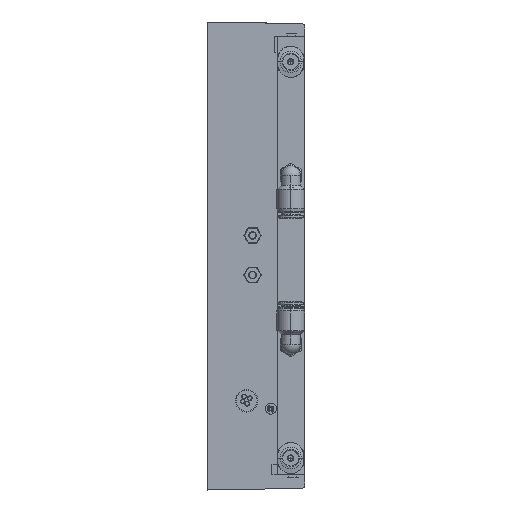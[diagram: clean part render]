
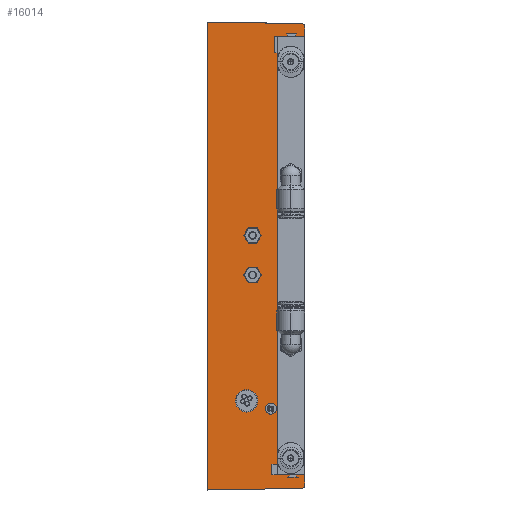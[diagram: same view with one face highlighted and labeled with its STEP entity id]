
A CAD part, left-side view. The second image highlights one B-rep face of the part: STEP entity #16014.
In plain terms, the highlighted planar face has unit normal (-1, 0, 0).
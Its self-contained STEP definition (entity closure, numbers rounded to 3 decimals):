
#160 = CARTESIAN_POINT ( 'NONE',  ( -32.853, 210.873, 139.895 ) ) ;
#311 = ORIENTED_EDGE ( 'NONE', *, *, #30897, .T. ) ;
#361 = VECTOR ( 'NONE', #24847, 1000. ) ;
#511 = VERTEX_POINT ( 'NONE', #12876 ) ;
#1052 = FACE_BOUND ( 'NONE', #29954, .T. ) ;
#1150 = ORIENTED_EDGE ( 'NONE', *, *, #25628, .T. ) ;
#1228 = PLANE ( 'NONE',  #23000 ) ;
#1343 = DIRECTION ( 'NONE',  ( -1., 0., 0. ) ) ;
#1894 = LINE ( 'NONE', #15651, #11724 ) ;
#2403 = VECTOR ( 'NONE', #24812, 1000. ) ;
#2794 = DIRECTION ( 'NONE',  ( 0., 0., 1. ) ) ;
#3715 = LINE ( 'NONE', #19744, #2403 ) ;
#3848 = DIRECTION ( 'NONE',  ( 0., 0., 1. ) ) ;
#4008 = DIRECTION ( 'NONE',  ( 0., 0., 1. ) ) ;
#4211 = VECTOR ( 'NONE', #25188, 1000. ) ;
#4447 = EDGE_CURVE ( 'NONE', #9259, #24603, #5367, .T. ) ;
#4503 = CARTESIAN_POINT ( 'NONE',  ( -32.853, 175.446, 316.451 ) ) ;
#4928 = ORIENTED_EDGE ( 'NONE', *, *, #4447, .F. ) ;
#5185 = CARTESIAN_POINT ( 'NONE',  ( -32.853, 184.323, 311.568 ) ) ;
#5187 = ORIENTED_EDGE ( 'NONE', *, *, #28035, .T. ) ;
#5367 = LINE ( 'NONE', #5185, #15071 ) ;
#5536 = CIRCLE ( 'NONE', #25023, 2.95 ) ;
#5706 = CIRCLE ( 'NONE', #32415, 3. ) ;
#5726 = CARTESIAN_POINT ( 'NONE',  ( -32.853, 173.873, 192.093 ) ) ;
#6173 = VERTEX_POINT ( 'NONE', #6672 ) ;
#6361 = CARTESIAN_POINT ( 'NONE',  ( -32.853, 190.935, 316.694 ) ) ;
#6583 = DIRECTION ( 'NONE',  ( 0., 0., 1. ) ) ;
#6672 = CARTESIAN_POINT ( 'NONE',  ( -32.853, 175.432, 140.512 ) ) ;
#7211 = DIRECTION ( 'NONE',  ( 0., 0., 1. ) ) ;
#7754 = DIRECTION ( 'NONE',  ( 0., 0., -1. ) ) ;
#7971 = VERTEX_POINT ( 'NONE', #160 ) ;
#8212 = CARTESIAN_POINT ( 'NONE',  ( -32.853, 193.673, 221.268 ) ) ;
#8288 = DIRECTION ( 'NONE',  ( 0., 0., 1. ) ) ;
#8375 = DIRECTION ( 'NONE',  ( -1., 0., 0. ) ) ;
#8533 = VERTEX_POINT ( 'NONE', #17079 ) ;
#8770 = EDGE_CURVE ( 'NONE', #32899, #27971, #12272, .T. ) ;
#9093 = CARTESIAN_POINT ( 'NONE',  ( -32.853, 193.673, 224.218 ) ) ;
#9145 = CIRCLE ( 'NONE', #28659, 2.95 ) ;
#9259 = VERTEX_POINT ( 'NONE', #19594 ) ;
#9427 = EDGE_LOOP ( 'NONE', ( #311, #1150, #12902, #17971, #4928, #14516, #10961, #5187, #16663, #21124, #27500, #14323 ) ) ;
#9485 = DIRECTION ( 'NONE',  ( 0., 0., 1. ) ) ;
#9612 = VERTEX_POINT ( 'NONE', #29008 ) ;
#10036 = EDGE_CURVE ( 'NONE', #23851, #8533, #17955, .T. ) ;
#10272 = CIRCLE ( 'NONE', #28685, 2.95 ) ;
#10541 = LINE ( 'NONE', #18737, #11968 ) ;
#10952 = LINE ( 'NONE', #5726, #23796 ) ;
#10961 = ORIENTED_EDGE ( 'NONE', *, *, #8770, .T. ) ;
#11280 = DIRECTION ( 'NONE',  ( 0., 0., 1. ) ) ;
#11695 = FACE_BOUND ( 'NONE', #33090, .T. ) ;
#11724 = VECTOR ( 'NONE', #15831, 1000. ) ;
#11935 = LINE ( 'NONE', #27467, #361 ) ;
#11968 = VECTOR ( 'NONE', #7754, 1000. ) ;
#12272 = CIRCLE ( 'NONE', #13381, 3. ) ;
#12642 = CARTESIAN_POINT ( 'NONE',  ( -32.853, 184.323, 311.568 ) ) ;
#12845 = CARTESIAN_POINT ( 'NONE',  ( -32.853, 173.873, 145.668 ) ) ;
#12876 = CARTESIAN_POINT ( 'NONE',  ( -32.853, 173.873, 140.98 ) ) ;
#12902 = ORIENTED_EDGE ( 'NONE', *, *, #23226, .F. ) ;
#13238 = CARTESIAN_POINT ( 'NONE',  ( -32.853, 180.921, 140.418 ) ) ;
#13381 = AXIS2_PLACEMENT_3D ( 'NONE', #31716, #24014, #15830 ) ;
#14323 = ORIENTED_EDGE ( 'NONE', *, *, #20959, .T. ) ;
#14516 = ORIENTED_EDGE ( 'NONE', *, *, #20982, .T. ) ;
#15071 = VECTOR ( 'NONE', #15807, 1000. ) ;
#15089 = CARTESIAN_POINT ( 'NONE',  ( -32.853, 193.673, 233.318 ) ) ;
#15651 = CARTESIAN_POINT ( 'NONE',  ( -32.853, 210.873, 166.768 ) ) ;
#15807 = DIRECTION ( 'NONE',  ( 0., 1., 0. ) ) ;
#15830 = DIRECTION ( 'NONE',  ( 0., 0., 1. ) ) ;
#15831 = DIRECTION ( 'NONE',  ( 0., 0., -1. ) ) ;
#16014 = ADVANCED_FACE ( 'NONE', ( #1052, #11695, #32981 ), #1228, .T. ) ;
#16663 = ORIENTED_EDGE ( 'NONE', *, *, #28158, .T. ) ;
#16739 = VERTEX_POINT ( 'NONE', #12845 ) ;
#17079 = CARTESIAN_POINT ( 'NONE',  ( -32.853, 193.673, 218.318 ) ) ;
#17769 = VECTOR ( 'NONE', #28168, 1000. ) ;
#17955 = CIRCLE ( 'NONE', #24655, 2.95 ) ;
#17971 = ORIENTED_EDGE ( 'NONE', *, *, #19564, .F. ) ;
#18246 = CARTESIAN_POINT ( 'NONE',  ( -32.853, 175.483, 143.511 ) ) ;
#18737 = CARTESIAN_POINT ( 'NONE',  ( -32.853, 184.323, 171.668 ) ) ;
#19564 = EDGE_CURVE ( 'NONE', #24603, #26251, #10541, .T. ) ;
#19594 = CARTESIAN_POINT ( 'NONE',  ( -32.853, 173.873, 311.568 ) ) ;
#19720 = CARTESIAN_POINT ( 'NONE',  ( -32.853, 193.11, 192.093 ) ) ;
#19744 = CARTESIAN_POINT ( 'NONE',  ( -32.853, 184.323, 140.358 ) ) ;
#20220 = CARTESIAN_POINT ( 'NONE',  ( -32.853, 210.873, 317.042 ) ) ;
#20602 = VERTEX_POINT ( 'NONE', #15089 ) ;
#20959 = EDGE_CURVE ( 'NONE', #34415, #6173, #11935, .T. ) ;
#20982 = EDGE_CURVE ( 'NONE', #9259, #32899, #32705, .T. ) ;
#21124 = ORIENTED_EDGE ( 'NONE', *, *, #29226, .T. ) ;
#21535 = DIRECTION ( 'NONE',  ( 0., 1., 0.012 ) ) ;
#21547 = LINE ( 'NONE', #32198, #4211 ) ;
#21549 = DIRECTION ( 'NONE',  ( -1., 0., 0. ) ) ;
#22521 = DIRECTION ( 'NONE',  ( -1., 0., 0. ) ) ;
#23000 = AXIS2_PLACEMENT_3D ( 'NONE', #19720, #22521, #3848 ) ;
#23076 = VERTEX_POINT ( 'NONE', #30081 ) ;
#23226 = EDGE_CURVE ( 'NONE', #26251, #16739, #21547, .T. ) ;
#23796 = VECTOR ( 'NONE', #11280, 1000. ) ;
#23851 = VERTEX_POINT ( 'NONE', #9093 ) ;
#24014 = DIRECTION ( 'NONE',  ( -1., 0., 0. ) ) ;
#24603 = VERTEX_POINT ( 'NONE', #12642 ) ;
#24655 = AXIS2_PLACEMENT_3D ( 'NONE', #8212, #8375, #2794 ) ;
#24662 = LINE ( 'NONE', #6361, #17769 ) ;
#24812 = DIRECTION ( 'NONE',  ( 0., 1., -0.017 ) ) ;
#24847 = DIRECTION ( 'NONE',  ( 0., -1., 0.017 ) ) ;
#25023 = AXIS2_PLACEMENT_3D ( 'NONE', #25245, #1343, #6583 ) ;
#25188 = DIRECTION ( 'NONE',  ( 0., -1., 0. ) ) ;
#25245 = CARTESIAN_POINT ( 'NONE',  ( -32.853, 193.673, 236.268 ) ) ;
#25628 = EDGE_CURVE ( 'NONE', #511, #16739, #10952, .T. ) ;
#26116 = ORIENTED_EDGE ( 'NONE', *, *, #26991, .F. ) ;
#26251 = VERTEX_POINT ( 'NONE', #30786 ) ;
#26544 = CARTESIAN_POINT ( 'NONE',  ( -32.853, 173.873, 315.982 ) ) ;
#26991 = EDGE_CURVE ( 'NONE', #9612, #20602, #5536, .T. ) ;
#27284 = CARTESIAN_POINT ( 'NONE',  ( -32.853, 180.921, 316.519 ) ) ;
#27467 = CARTESIAN_POINT ( 'NONE',  ( -32.853, 180.921, 140.418 ) ) ;
#27500 = ORIENTED_EDGE ( 'NONE', *, *, #32625, .F. ) ;
#27913 = DIRECTION ( 'NONE',  ( -1., 0., 0. ) ) ;
#27934 = ORIENTED_EDGE ( 'NONE', *, *, #10036, .F. ) ;
#27971 = VERTEX_POINT ( 'NONE', #4503 ) ;
#28035 = EDGE_CURVE ( 'NONE', #27971, #23076, #29911, .T. ) ;
#28068 = ORIENTED_EDGE ( 'NONE', *, *, #33209, .F. ) ;
#28158 = EDGE_CURVE ( 'NONE', #23076, #34214, #24662, .T. ) ;
#28168 = DIRECTION ( 'NONE',  ( 0., 1., 0.017 ) ) ;
#28659 = AXIS2_PLACEMENT_3D ( 'NONE', #30872, #27913, #4008 ) ;
#28685 = AXIS2_PLACEMENT_3D ( 'NONE', #31483, #28691, #7211 ) ;
#28691 = DIRECTION ( 'NONE',  ( -1., 0., 0. ) ) ;
#28712 = ORIENTED_EDGE ( 'NONE', *, *, #33527, .F. ) ;
#28914 = VECTOR ( 'NONE', #21535, 1000. ) ;
#29008 = CARTESIAN_POINT ( 'NONE',  ( -32.853, 193.673, 239.218 ) ) ;
#29226 = EDGE_CURVE ( 'NONE', #34214, #7971, #1894, .T. ) ;
#29897 = VECTOR ( 'NONE', #9485, 1000. ) ;
#29911 = LINE ( 'NONE', #27284, #28914 ) ;
#29954 = EDGE_LOOP ( 'NONE', ( #27934, #28712 ) ) ;
#30081 = CARTESIAN_POINT ( 'NONE',  ( -32.853, 180.921, 316.519 ) ) ;
#30786 = CARTESIAN_POINT ( 'NONE',  ( -32.853, 184.323, 145.668 ) ) ;
#30872 = CARTESIAN_POINT ( 'NONE',  ( -32.853, 193.673, 236.268 ) ) ;
#30897 = EDGE_CURVE ( 'NONE', #6173, #511, #5706, .T. ) ;
#31483 = CARTESIAN_POINT ( 'NONE',  ( -32.853, 193.673, 221.268 ) ) ;
#31716 = CARTESIAN_POINT ( 'NONE',  ( -32.853, 175.483, 313.451 ) ) ;
#32198 = CARTESIAN_POINT ( 'NONE',  ( -32.853, 184.323, 145.668 ) ) ;
#32415 = AXIS2_PLACEMENT_3D ( 'NONE', #18246, #21549, #8288 ) ;
#32625 = EDGE_CURVE ( 'NONE', #34415, #7971, #3715, .T. ) ;
#32705 = LINE ( 'NONE', #33389, #29897 ) ;
#32899 = VERTEX_POINT ( 'NONE', #26544 ) ;
#32981 = FACE_OUTER_BOUND ( 'NONE', #9427, .T. ) ;
#33090 = EDGE_LOOP ( 'NONE', ( #26116, #28068 ) ) ;
#33209 = EDGE_CURVE ( 'NONE', #20602, #9612, #9145, .T. ) ;
#33389 = CARTESIAN_POINT ( 'NONE',  ( -32.853, 173.873, 192.093 ) ) ;
#33527 = EDGE_CURVE ( 'NONE', #8533, #23851, #10272, .T. ) ;
#34214 = VERTEX_POINT ( 'NONE', #20220 ) ;
#34415 = VERTEX_POINT ( 'NONE', #13238 ) ;
